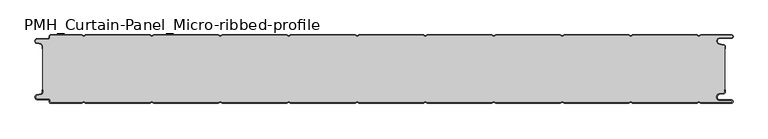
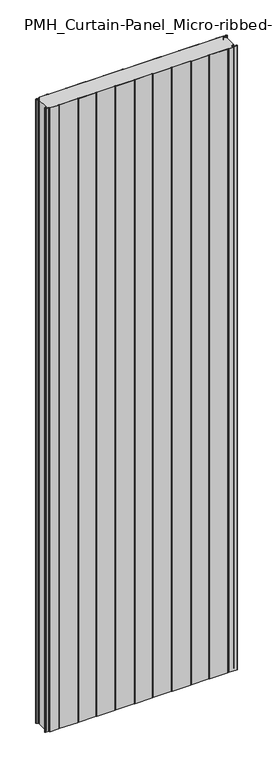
"""IFC4 building model written with IfcOpenShell, lengths in millimetres: plate geometry, PMH_Curtain-Panel_Micro-ribbed-profile : ACH_PMH_Acoustic-Sectioning-Panel_100M."""

import ifcopenshell
import ifcopenshell.guid

model = None  # the IFC model being written
_history = None  # IfcOwnerHistory: only IFC2X3 demands one
_inside = {}  # id of a spatial element -> (the spatial element, [elements in it])
_under = {}  # id of a project, library or spatial element -> (it, [spatial elements below it])
_declared = {}  # id of a project -> (the project, [libraries it declares])
_typed = {}  # id of a type object -> (the type object, [elements of that type])
_made_of = {}  # id of a material, layer set ... -> (it, [elements and type objects made of it])


def new_model(schema):
    """Start an empty IFC model of exactly this schema.

    Asked for "IFC4X3", IfcOpenShell would pick the latest addendum, in which some entities
    have other attributes; the version numbers below select the first issue.
    IFC2X3 requires an IfcOwnerHistory on every rooted entity: one is made here for all.
    """
    global model, _history
    if schema == "IFC4X3":
        model = ifcopenshell.file(schema_version=(4, 3, 0, 0))
    else:
        model = ifcopenshell.file(schema=schema)
    _inside.clear()
    _under.clear()
    _declared.clear()
    _typed.clear()
    _made_of.clear()
    _history = None
    if model.schema == "IFC2X3":
        org = make("IfcOrganization", Name="unknown")
        user = make(
            "IfcPersonAndOrganization",
            ThePerson=make("IfcPerson", FamilyName="unknown"),
            TheOrganization=org,
        )
        app = make(
            "IfcApplication",
            ApplicationDeveloper=org,
            Version="unknown",
            ApplicationFullName="unknown",
            ApplicationIdentifier="unknown",
        )
        _history = make(
            "IfcOwnerHistory",
            OwningUser=user,
            OwningApplication=app,
            ChangeAction="ADDED",
            CreationDate=0,
        )
    return model


def make(cls, **values):
    """One entity of the class cls with the attributes given. An attribute that is None is left unset."""
    return model.create_entity(
        cls, **{name: value for name, value in values.items() if value is not None}
    )


def rooted(cls, **values):
    """An entity with a GlobalId (a new one), such as an element, a storey or a relation."""
    return make(cls, GlobalId=ifcopenshell.guid.new(), OwnerHistory=_history, **values)


def si_unit(unit_type, name, prefix=None):
    """IfcSIUnit, for example si_unit("LENGTHUNIT", "METRE", prefix="MILLI")."""
    return make("IfcSIUnit", UnitType=unit_type, Prefix=prefix, Name=name)


def assignment(units):
    """IfcUnitAssignment: the units of a project."""
    return None if units is None else make("IfcUnitAssignment", Units=units)


def point(xyz):
    """IfcCartesianPoint."""
    return None if xyz is None else make("IfcCartesianPoint", Coordinates=xyz)


def direction(xyz):
    """IfcDirection."""
    return None if xyz is None else make("IfcDirection", DirectionRatios=xyz)


def frame(location, z_axis=None, x_axis=None):
    """IfcAxis2Placement3D, a coordinate frame: its origin and axes. An axis left out is left unset."""
    return make(
        "IfcAxis2Placement3D",
        Location=point(location),
        Axis=direction(z_axis),
        RefDirection=direction(x_axis),
    )


def frame_2d(location, x_axis=None):
    """IfcAxis2Placement2D, a coordinate frame in the plane: its origin and x axis."""
    return make(
        "IfcAxis2Placement2D", Location=point(location), RefDirection=direction(x_axis)
    )


def origin():
    """The frame at (0, 0, 0) with its axes left unset."""
    return frame((0.0, 0.0, 0.0))


def origin_with_axes():
    """The frame at (0, 0, 0) with the z axis (0, 0, 1) and the x axis (1, 0, 0) written out."""
    return frame((0.0, 0.0, 0.0), z_axis=(0.0, 0.0, 1.0), x_axis=(1.0, 0.0, 0.0))


def place(relative_to, where):
    """IfcLocalPlacement: puts the frame where relative to a parent placement (None: the world)."""
    return make(
        "IfcLocalPlacement", PlacementRelTo=relative_to, RelativePlacement=where
    )


def context(
    kind, dimensions, precision=None, world=None, true_north=None, identifier=None
):
    """IfcGeometricRepresentationContext, for example the 3D "Model" context."""
    return make(
        "IfcGeometricRepresentationContext",
        ContextIdentifier=identifier,
        ContextType=kind,
        CoordinateSpaceDimension=dimensions,
        Precision=precision,
        WorldCoordinateSystem=world,
        TrueNorth=true_north,
    )


def project(units=None, contexts=None):
    """IfcProject with its units and contexts."""
    return rooted(
        "IfcProject",
        Name="project",
        RepresentationContexts=contexts,
        UnitsInContext=assignment(units),
    )


def spatial(cls, under=None, at=None, **own):
    """A site, building, storey or space (cls), placed at a placement, below another one or the project."""
    s = rooted(cls, ObjectPlacement=at, **own)
    if under is not None:
        _under.setdefault(under.id(), (under, []))[1].append(s)
    return s


def polyline(points):
    """IfcPolyline through the points."""
    return make("IfcPolyline", Points=[point(p) for p in points])


def circle_curve(where, radius):
    """IfcCircle in the frame where."""
    return make("IfcCircle", Position=where, Radius=radius)


def trimmed(basis, trim1, trim2, sense, master):
    """IfcTrimmedCurve: the piece of a basis curve between two trims."""
    return make(
        "IfcTrimmedCurve",
        BasisCurve=basis,
        Trim1=trim1,
        Trim2=trim2,
        SenseAgreement=sense,
        MasterRepresentation=master,
    )


def segment(curve, same_sense, transition):
    """IfcCompositeCurveSegment."""
    return make(
        "IfcCompositeCurveSegment",
        Transition=transition,
        SameSense=same_sense,
        ParentCurve=curve,
    )


def composite_curve(segments, self_intersect=None):
    """IfcCompositeCurve: segments joined end to end."""
    return make("IfcCompositeCurve", Segments=segments, SelfIntersect=self_intersect)


def outline(outer, holes=None, kind="AREA"):
    """IfcArbitraryClosedProfileDef: a profile drawn as a closed curve; with holes, ...WithVoids."""
    if holes is None:
        return make("IfcArbitraryClosedProfileDef", ProfileType=kind, OuterCurve=outer)
    return make(
        "IfcArbitraryProfileDefWithVoids",
        ProfileType=kind,
        OuterCurve=outer,
        InnerCurves=holes,
    )


def extrude(swept, where, along, depth):
    """IfcExtrudedAreaSolid: the profile swept, set in the frame where, extruded along a direction by depth."""
    return make(
        "IfcExtrudedAreaSolid",
        SweptArea=swept,
        Position=where,
        ExtrudedDirection=direction(along),
        Depth=depth,
    )


def shape(context_of_items, identifier, shape_type, items):
    """IfcShapeRepresentation: the items that make up one representation, for example the "Body"."""
    return make(
        "IfcShapeRepresentation",
        ContextOfItems=context_of_items,
        RepresentationIdentifier=identifier,
        RepresentationType=shape_type,
        Items=items,
    )


def source(mapping_origin, context_of_items, identifier, shape_type, items):
    """IfcRepresentationMap: a shape defined once, which mapped items show again and again."""
    return make(
        "IfcRepresentationMap",
        MappingOrigin=mapping_origin,
        MappedRepresentation=shape(context_of_items, identifier, shape_type, items),
    )


def transform(
    local_origin,
    x_axis=None,
    y_axis=None,
    z_axis=None,
    scale=None,
    scale2=None,
    scale3=None,
    uniform=True,
):
    """IfcCartesianTransformationOperator3D, or its non-uniform kind. x_axis, y_axis, z_axis: its Axis1, 2, 3."""
    if uniform:
        return make(
            "IfcCartesianTransformationOperator3D",
            Axis1=direction(x_axis),
            Axis2=direction(y_axis),
            LocalOrigin=point(local_origin),
            Scale=scale,
            Axis3=direction(z_axis),
        )
    return make(
        "IfcCartesianTransformationOperator3DnonUniform",
        Axis1=direction(x_axis),
        Axis2=direction(y_axis),
        LocalOrigin=point(local_origin),
        Scale=scale,
        Axis3=direction(z_axis),
        Scale2=scale2,
        Scale3=scale3,
    )


def mapped(mapping_source, mapping_target):
    """IfcMappedItem: shows the shape of a source again, moved by a transform."""
    return make(
        "IfcMappedItem", MappingSource=mapping_source, MappingTarget=mapping_target
    )


def made_of(thing, what):
    """Note that an element or type object is made of a material, layer set ...; save() writes the relation."""
    if what is not None:
        _made_of.setdefault(what.id(), (what, []))[1].append(thing)
    return thing


def element(
    cls,
    number,
    at=None,
    inside=None,
    cuts=None,
    type_object=None,
    material=None,
    context=None,
    identifier="Body",
    shape_type=None,
    held_by="IfcProductDefinitionShape",
    body=None,
    shapes=None,
    **own,
):
    """One element of the class cls, such as IfcWall. Its Tag is "e" and its number.

    at: its placement. inside: the storey or other place that contains it. cuts: it is an
    opening in that element (IfcRelVoidsElement). A single representation is given by context,
    identifier, shape_type and body (its items); several are given by shapes. held_by: the class
    of the entity that holds the representations. save() writes the other relations.
    """
    e = rooted(cls, Tag="e%d" % number, ObjectPlacement=at, **own)
    if body is not None:
        shapes = [shape(context, identifier, shape_type, body)]
    if shapes is not None:
        e.Representation = make(held_by, Representations=shapes)
    if inside is not None:
        _inside.setdefault(inside.id(), (inside, []))[1].append(e)
    if cuts is not None:
        rooted(
            "IfcRelVoidsElement", RelatingBuildingElement=cuts, RelatedOpeningElement=e
        )
    if type_object is not None:
        _typed.setdefault(type_object.id(), (type_object, []))[1].append(e)
    return made_of(e, material)


def aggregate(whole, parts):
    """IfcRelAggregates: a whole, such as a stair, and the parts it consists of."""
    return rooted("IfcRelAggregates", RelatingObject=whole, RelatedObjects=parts)


def save(model, path):
    """Write the relations noted so far, then the file.

    IfcRelAggregates (storeys below a building ...), IfcRelContainedInSpatialStructure (elements
    in a storey), IfcRelDefinesByType, IfcRelAssociatesMaterial and IfcRelDeclares: one each for
    every whole, place, type object, material and project.
    """
    for whole, parts in _under.values():
        aggregate(whole, parts)
    for where, things in _inside.values():
        rooted(
            "IfcRelContainedInSpatialStructure",
            RelatedElements=things,
            RelatingStructure=where,
        )
    for kind, things in _typed.values():
        rooted("IfcRelDefinesByType", RelatedObjects=things, RelatingType=kind)
    for what, things in _made_of.values():
        rooted("IfcRelAssociatesMaterial", RelatedObjects=things, RelatingMaterial=what)
    for by, libraries in _declared.values():
        rooted("IfcRelDeclares", RelatingContext=by, RelatedDefinitions=libraries)
    model.write(path)


def pmh_curtain_panel_micro_ribbed_profile_23aabe01(model_context):
    return source(origin(), model_context, "Body", "SweptSolid", [
        extrude(outline(composite_curve([segment(polyline([(-500.0, 15.878557), (-500.0, 20.0), (-499.2, 20.0), (-499.2, 15.878557)]), True, "CONTINUOUS"), segment(trimmed(circle_curve(frame_2d((-502.0, 15.878557)), 2.8), [point((-499.2, 15.878557))], [point((-501.370137, 13.1503208))], False, "CARTESIAN"), True, "CONTINUOUS"), segment(polyline([(-501.370137, 13.1503208), (-507.529863, 11.728236)]), True, "CONTINUOUS"), segment(trimmed(circle_curve(frame_2d((-506.9, 9.0)), 2.8), [point((-507.529863, 11.728236))], [point((-506.9, 6.2))], True, "CARTESIAN"), True, "CONTINUOUS"), segment(polyline([(-506.9, 6.2), (-491.4, 6.2)]), True, "CONTINUOUS"), segment(trimmed(circle_curve(frame_2d((-491.4, 3.4)), 2.8), [point((-491.4, 6.2))], [point((-488.6, 3.4))], False, "CARTESIAN"), True, "CONTINUOUS"), segment(polyline([(-488.6, 3.4), (-488.6, 2.0)]), True, "CONTINUOUS"), segment(trimmed(circle_curve(frame_2d((-487.4, 2.0)), 1.2), [point((-488.6, 2.0))], [point((-487.4, 0.8))], True, "CARTESIAN"), True, "CONTINUOUS"), segment(polyline([(-487.4, 0.8), (-442.3143588, 0.8), (-439.4, 2.482606), (-436.4856412, 0.8), (-342.3143588, 0.8), (-339.4, 2.482606), (-336.4856412, 0.8), (-242.3143588, 0.8), (-239.4, 2.482606), (-236.4856412, 0.8), (-142.3143588, 0.8), (-139.4, 2.482606), (-136.4856412, 0.8), (-42.3143588, 0.8), (-39.4, 2.482606), (-36.4856412, 0.8), (57.6856412, 0.8), (60.6, 2.482606), (63.5143588, 0.8), (157.6856412, 0.8), (160.6, 2.482606), (163.5143588, 0.8), (257.6856412, 0.8), (260.6, 2.482606), (263.5143588, 0.8), (357.6856412, 0.8), (360.6, 2.482606), (363.5143588, 0.8), (457.6856412, 0.8), (460.6, 2.482606), (463.5143588, 0.8), (508.1, 0.8)]), True, "CONTINUOUS"), segment(trimmed(circle_curve(frame_2d((508.1, 2.5)), 1.7), [point((508.1, 0.8))], [point((508.1, 4.2))], True, "CARTESIAN"), True, "CONTINUOUS"), segment(polyline([(508.1, 4.2), (491.1, 4.2)]), True, "CONTINUOUS"), segment(trimmed(circle_curve(frame_2d((491.1, 9.0)), 4.8), [point((491.1, 4.2))], [point((490.2664884, 13.7270771))], False, "CARTESIAN"), True, "CONTINUOUS"), segment(polyline([(490.2664884, 13.7270771), (496.7125669, 14.8636953)]), True, "CONTINUOUS"), segment(trimmed(circle_curve(frame_2d((496.4, 16.6363492)), 1.8), [point((496.7125669, 14.8636953))], [point((498.2, 16.6363492))], True, "CARTESIAN"), True, "CONTINUOUS"), segment(polyline([(498.2, 16.6363492), (498.2, 20.0), (499.0, 20.0), (499.0, 16.6363492)]), True, "CONTINUOUS"), segment(trimmed(circle_curve(frame_2d((496.4, 16.6363492)), 2.6), [point((499.0, 16.6363492))], [point((496.8514855, 14.0758491))], False, "CARTESIAN"), True, "CONTINUOUS"), segment(polyline([(496.8514855, 14.0758491), (490.405407, 12.939231)]), True, "CONTINUOUS"), segment(trimmed(circle_curve(frame_2d((491.1, 9.0)), 4.0), [point((490.405407, 12.939231))], [point((491.1, 5.0))], True, "CARTESIAN"), True, "CONTINUOUS"), segment(polyline([(491.1, 5.0), (508.1, 5.0)]), True, "CONTINUOUS"), segment(trimmed(circle_curve(frame_2d((508.1, 2.5)), 2.5), [point((508.1, 5.0))], [point((508.1, 0.0))], False, "CARTESIAN"), True, "CONTINUOUS"), segment(polyline([(508.1, 0.0), (463.2999995, 0.0), (460.6, 1.5588455), (457.9000005, 0.0), (363.2999995, 0.0), (360.6, 1.5588455), (357.9000005, 0.0), (263.2999995, 0.0), (260.6, 1.5588455), (257.9000005, 0.0), (163.2999995, 0.0), (160.6, 1.5588455), (157.9000005, 0.0), (63.2999995, 0.0), (60.6, 1.5588455), (57.9000005, 0.0), (-36.7000005, 0.0), (-39.4, 1.5588455), (-42.0999995, 0.0), (-136.7000005, 0.0), (-139.4, 1.5588455), (-142.0999995, 0.0), (-236.7000005, 0.0), (-239.4, 1.5588455), (-242.0999995, 0.0), (-336.7000005, 0.0), (-339.4, 1.5588455), (-342.0999995, 0.0), (-436.7000005, 0.0), (-439.4, 1.5588455), (-442.0999995, 0.0), (-487.4, 0.0)]), True, "CONTINUOUS"), segment(trimmed(circle_curve(frame_2d((-487.4, 2.0)), 2.0), [point((-487.4, 0.0))], [point((-489.4, 2.0))], False, "CARTESIAN"), True, "CONTINUOUS"), segment(polyline([(-489.4, 2.0), (-489.4, 3.4)]), True, "CONTINUOUS"), segment(trimmed(circle_curve(frame_2d((-491.4, 3.4)), 2.0), [point((-489.4, 3.4))], [point((-491.4, 5.4))], True, "CARTESIAN"), True, "CONTINUOUS"), segment(polyline([(-491.4, 5.4), (-506.9, 5.4)]), True, "CONTINUOUS"), segment(trimmed(circle_curve(frame_2d((-506.9, 9.0)), 3.6), [point((-506.9, 5.4))], [point((-507.7098239, 12.5077322))], False, "CARTESIAN"), True, "CONTINUOUS"), segment(polyline([(-507.7098239, 12.5077322), (-501.5500979, 13.929817)]), True, "CONTINUOUS"), segment(trimmed(circle_curve(frame_2d((-502.0, 15.878557)), 2.0), [point((-501.5500979, 13.929817))], [point((-500.0, 15.878557))], True, "CARTESIAN"), True, "CONTINUOUS")], self_intersect=False)), origin_with_axes(), (0.0, 0.0, 1.0), 3500.0),
        extrude(outline(composite_curve([segment(trimmed(circle_curve(frame_2d((-502.0, 84.1214426)), 2.8), [point((-499.2, 84.1214426))], [point((-501.370137, 86.8496788))], True, "CARTESIAN"), True, "CONTINUOUS"), segment(polyline([(-501.370137, 86.8496788), (-507.5298631, 88.2717638)]), True, "CONTINUOUS"), segment(trimmed(circle_curve(frame_2d((-506.9, 91.0)), 2.8), [point((-507.5298631, 88.2717638))], [point((-506.9, 93.8))], False, "CARTESIAN"), True, "CONTINUOUS"), segment(polyline([(-506.9, 93.8), (-491.4000001, 93.8)]), True, "CONTINUOUS"), segment(trimmed(circle_curve(frame_2d((-491.4000001, 96.6)), 2.8), [point((-491.4000001, 93.8))], [point((-488.6000001, 96.6))], True, "CARTESIAN"), True, "CONTINUOUS"), segment(polyline([(-488.6000001, 96.6), (-488.6000001, 98.0)]), True, "CONTINUOUS"), segment(trimmed(circle_curve(frame_2d((-487.4000001, 98.0)), 1.2), [point((-488.6000001, 98.0))], [point((-487.4000001, 99.2))], False, "CARTESIAN"), True, "CONTINUOUS"), segment(polyline([(-487.4000001, 99.2), (-442.3143589, 99.2), (-439.4000001, 97.517394), (-436.4856412, 99.2), (-342.3143589, 99.2), (-339.4000001, 97.517394), (-336.4856412, 99.2), (-242.3143589, 99.2), (-239.4000001, 97.517394), (-236.4856412, 99.2), (-142.3143589, 99.2), (-139.4000001, 97.517394), (-136.4856412, 99.2), (-42.3143589, 99.2), (-39.4000001, 97.517394), (-36.4856412, 99.2), (57.6856411, 99.2), (60.5999999, 97.517394), (63.5143588, 99.2), (157.6856411, 99.2), (160.5999999, 97.517394), (163.5143588, 99.2), (257.6856411, 99.2), (260.5999999, 97.517394), (263.5143588, 99.2), (357.6856411, 99.2), (360.5999999, 97.517394), (363.5143588, 99.2), (457.6856411, 99.2), (460.5999999, 97.517394), (463.5143588, 99.2), (508.0999999, 99.2)]), True, "CONTINUOUS"), segment(trimmed(circle_curve(frame_2d((508.0999999, 97.5)), 1.7), [point((508.0999999, 99.2))], [point((508.0999999, 95.8))], False, "CARTESIAN"), True, "CONTINUOUS"), segment(polyline([(508.0999999, 95.8), (491.0999999, 95.8)]), True, "CONTINUOUS"), segment(trimmed(circle_curve(frame_2d((491.0999999, 91.0)), 4.8), [point((491.0999999, 95.8))], [point((490.2664883, 86.2729229))], True, "CARTESIAN"), True, "CONTINUOUS"), segment(polyline([(490.2664883, 86.2729229), (496.7125668, 85.1363047)]), True, "CONTINUOUS"), segment(trimmed(circle_curve(frame_2d((496.3999999, 83.3636508)), 1.8), [point((496.7125668, 85.1363047))], [point((498.1999999, 83.3636508))], False, "CARTESIAN"), True, "CONTINUOUS"), segment(polyline([(498.1999999, 83.3636508), (498.1999999, 16.6363492)]), True, "CONTINUOUS"), segment(trimmed(circle_curve(frame_2d((496.3999999, 16.6363492)), 1.8), [point((498.1999999, 16.6363492))], [point((496.7125668, 14.8636953))], False, "CARTESIAN"), True, "CONTINUOUS"), segment(polyline([(496.7125668, 14.8636953), (490.2664883, 13.7270771)]), True, "CONTINUOUS"), segment(trimmed(circle_curve(frame_2d((491.0999999, 9.0)), 4.8), [point((490.2664883, 13.7270771))], [point((491.0999999, 4.2))], True, "CARTESIAN"), True, "CONTINUOUS"), segment(polyline([(491.0999999, 4.2), (508.0999999, 4.2)]), True, "CONTINUOUS"), segment(trimmed(circle_curve(frame_2d((508.0999999, 2.5)), 1.7), [point((508.0999999, 4.2))], [point((508.0999999, 0.8))], False, "CARTESIAN"), True, "CONTINUOUS"), segment(polyline([(508.0999999, 0.8), (463.5143588, 0.8), (460.5999999, 2.482606), (457.6856411, 0.8), (363.5143588, 0.8), (360.5999999, 2.482606), (357.6856411, 0.8), (263.5143588, 0.8), (260.5999999, 2.482606), (257.6856411, 0.8), (163.5143588, 0.8), (160.5999999, 2.482606), (157.6856411, 0.8), (63.5143588, 0.8), (60.5999999, 2.482606), (57.6856411, 0.8), (-36.4856412, 0.8), (-39.4000001, 2.482606), (-42.3143589, 0.8), (-136.4856412, 0.8), (-139.4000001, 2.482606), (-142.3143589, 0.8), (-236.4856412, 0.8), (-239.4000001, 2.482606), (-242.3143589, 0.8), (-336.4856412, 0.8), (-339.4000001, 2.482606), (-342.3143589, 0.8), (-436.4856412, 0.8), (-439.4000001, 2.482606), (-442.3143589, 0.8), (-487.4000001, 0.8)]), True, "CONTINUOUS"), segment(trimmed(circle_curve(frame_2d((-487.4000001, 2.0)), 1.2), [point((-487.4000001, 0.8))], [point((-488.6000001, 2.0))], False, "CARTESIAN"), True, "CONTINUOUS"), segment(polyline([(-488.6000001, 2.0), (-488.6000001, 3.4)]), True, "CONTINUOUS"), segment(trimmed(circle_curve(frame_2d((-491.4000001, 3.4)), 2.8), [point((-488.6000001, 3.4))], [point((-491.4000001, 6.2))], True, "CARTESIAN"), True, "CONTINUOUS"), segment(polyline([(-491.4000001, 6.2), (-506.9, 6.2)]), True, "CONTINUOUS"), segment(trimmed(circle_curve(frame_2d((-506.9, 9.0)), 2.8), [point((-506.9, 6.2))], [point((-507.5298631, 11.7282362))], False, "CARTESIAN"), True, "CONTINUOUS"), segment(polyline([(-507.5298631, 11.7282362), (-501.370137, 13.1503212)]), True, "CONTINUOUS"), segment(trimmed(circle_curve(frame_2d((-502.0, 15.8785573)), 2.8), [point((-501.370137, 13.1503212))], [point((-499.2, 15.8785573))], True, "CARTESIAN"), True, "CONTINUOUS"), segment(polyline([(-499.2, 15.8785573), (-499.2, 84.1214426)]), True, "CONTINUOUS")], self_intersect=False)), origin_with_axes(), (0.0, 0.0, 1.0), 3500.0),
        extrude(outline(composite_curve([segment(trimmed(circle_curve(frame_2d((-502.0, 84.121443)), 2.0), [point((-500.0, 84.121443))], [point((-501.5500978, 86.0701831))], True, "CARTESIAN"), True, "CONTINUOUS"), segment(polyline([(-501.5500978, 86.0701831), (-507.7098239, 87.492268)]), True, "CONTINUOUS"), segment(trimmed(circle_curve(frame_2d((-506.9, 91.0)), 3.6), [point((-507.7098239, 87.492268))], [point((-506.9, 94.6))], False, "CARTESIAN"), True, "CONTINUOUS"), segment(polyline([(-506.9, 94.6), (-491.4, 94.6)]), True, "CONTINUOUS"), segment(trimmed(circle_curve(frame_2d((-491.4, 96.6)), 2.0), [point((-491.4, 94.6))], [point((-489.4, 96.6))], True, "CARTESIAN"), True, "CONTINUOUS"), segment(polyline([(-489.4, 96.6), (-489.4, 98.0)]), True, "CONTINUOUS"), segment(trimmed(circle_curve(frame_2d((-487.4, 98.0)), 2.0), [point((-489.4, 98.0))], [point((-487.4, 100.0))], False, "CARTESIAN"), True, "CONTINUOUS"), segment(polyline([(-487.4, 100.0), (-442.0999995, 100.0), (-439.4, 98.4411545), (-436.7000005, 100.0), (-342.0999995, 100.0), (-339.4, 98.4411545), (-336.7000005, 100.0), (-242.0999995, 100.0), (-239.4, 98.4411545), (-236.7000005, 100.0), (-142.0999995, 100.0), (-139.4, 98.4411545), (-136.7000005, 100.0), (-42.0999995, 100.0), (-39.4, 98.4411545), (-36.7000005, 100.0), (57.9000005, 100.0), (60.6, 98.4411545), (63.2999995, 100.0), (157.9000005, 100.0), (160.6, 98.4411545), (163.2999995, 100.0), (257.9000005, 100.0), (260.6, 98.4411545), (263.2999995, 100.0), (357.9000005, 100.0), (360.6, 98.4411545), (363.2999995, 100.0), (457.9000005, 100.0), (460.6, 98.4411545), (463.2999995, 100.0), (508.1, 100.0)]), True, "CONTINUOUS"), segment(trimmed(circle_curve(frame_2d((508.1, 97.5)), 2.5), [point((508.1, 100.0))], [point((508.1, 95.0))], False, "CARTESIAN"), True, "CONTINUOUS"), segment(polyline([(508.1, 95.0), (491.1, 95.0)]), True, "CONTINUOUS"), segment(trimmed(circle_curve(frame_2d((491.1, 91.0)), 4.0), [point((491.1, 95.0))], [point((490.405407, 87.060769))], True, "CARTESIAN"), True, "CONTINUOUS"), segment(polyline([(490.405407, 87.060769), (496.8514855, 85.9241509)]), True, "CONTINUOUS"), segment(trimmed(circle_curve(frame_2d((496.4, 83.3636508)), 2.6), [point((496.8514855, 85.9241509))], [point((499.0, 83.3636508))], False, "CARTESIAN"), True, "CONTINUOUS"), segment(polyline([(499.0, 83.3636508), (499.0, 80.0), (498.2, 80.0), (498.2, 83.3636508)]), True, "CONTINUOUS"), segment(trimmed(circle_curve(frame_2d((496.4, 83.3636508)), 1.8), [point((498.2, 83.3636508))], [point((496.7125669, 85.1363047))], True, "CARTESIAN"), True, "CONTINUOUS"), segment(polyline([(496.7125669, 85.1363047), (490.2664884, 86.2729228)]), True, "CONTINUOUS"), segment(trimmed(circle_curve(frame_2d((491.1, 91.0)), 4.8), [point((490.2664884, 86.2729228))], [point((491.1, 95.8))], False, "CARTESIAN"), True, "CONTINUOUS"), segment(polyline([(491.1, 95.8), (508.1, 95.8)]), True, "CONTINUOUS"), segment(trimmed(circle_curve(frame_2d((508.1, 97.5)), 1.7), [point((508.1, 95.8))], [point((508.1, 99.2))], True, "CARTESIAN"), True, "CONTINUOUS"), segment(polyline([(508.1, 99.2), (463.5143588, 99.2), (460.6, 97.517394), (457.6856412, 99.2), (363.5143588, 99.2), (360.6, 97.517394), (357.6856412, 99.2), (263.5143588, 99.2), (260.6, 97.517394), (257.6856412, 99.2), (163.5143588, 99.2), (160.6, 97.517394), (157.6856412, 99.2), (63.5143588, 99.2), (60.6, 97.517394), (57.6856412, 99.2), (-36.4856412, 99.2), (-39.4, 97.517394), (-42.3143588, 99.2), (-136.4856412, 99.2), (-139.4, 97.517394), (-142.3143588, 99.2), (-236.4856412, 99.2), (-239.4, 97.517394), (-242.3143588, 99.2), (-336.4856412, 99.2), (-339.4, 97.517394), (-342.3143588, 99.2), (-436.4856412, 99.2), (-439.4, 97.517394), (-442.3143588, 99.2), (-487.4, 99.2)]), True, "CONTINUOUS"), segment(trimmed(circle_curve(frame_2d((-487.4, 98.0)), 1.2), [point((-487.4, 99.2))], [point((-488.6, 98.0))], True, "CARTESIAN"), True, "CONTINUOUS"), segment(polyline([(-488.6, 98.0), (-488.6, 96.6)]), True, "CONTINUOUS"), segment(trimmed(circle_curve(frame_2d((-491.4, 96.6)), 2.8), [point((-488.6, 96.6))], [point((-491.4, 93.8))], False, "CARTESIAN"), True, "CONTINUOUS"), segment(polyline([(-491.4, 93.8), (-506.9, 93.8)]), True, "CONTINUOUS"), segment(trimmed(circle_curve(frame_2d((-506.9, 91.0)), 2.8), [point((-506.9, 93.8))], [point((-507.529863, 88.2717638))], True, "CARTESIAN"), True, "CONTINUOUS"), segment(polyline([(-507.529863, 88.2717638), (-501.370137, 86.849679)]), True, "CONTINUOUS"), segment(trimmed(circle_curve(frame_2d((-502.0, 84.121443)), 2.8), [point((-501.370137, 86.849679))], [point((-499.2, 84.121443))], False, "CARTESIAN"), True, "CONTINUOUS"), segment(polyline([(-499.2, 84.121443), (-499.2, 80.0), (-500.0, 80.0), (-500.0, 84.121443)]), True, "CONTINUOUS")], self_intersect=False)), origin_with_axes(), (0.0, 0.0, 1.0), 3500.0),
    ])


if __name__ == "__main__":
    model = new_model("IFC4")
    model_context = context("Model", 3, world=origin())
    ifc_project = project(units=[si_unit("LENGTHUNIT", "METRE", prefix="MILLI")], contexts=[model_context])
    site = spatial("IfcSite", under=ifc_project)
    building = spatial("IfcBuilding", under=site)
    placement = place(None, origin())
    pmh_curtain_panel_micro_ribbed_profile_shape = pmh_curtain_panel_micro_ribbed_profile_23aabe01(model_context)
    element("IfcPlate", 1, ObjectType="PMH_Curtain-Panel_Micro-ribbed-profile : ACH_PMH_Acoustic-Sectioning-Panel_100M", at=placement, inside=building, context=model_context, shape_type="MappedRepresentation", body=[
        mapped(pmh_curtain_panel_micro_ribbed_profile_shape, transform((0.0, 0.0, 0.0), x_axis=(1.0, 0.0, 0.0), y_axis=(0.0, 1.0, 0.0), z_axis=(0.0, 0.0, 1.0))),
    ])
    save(model, "model.ifc")
